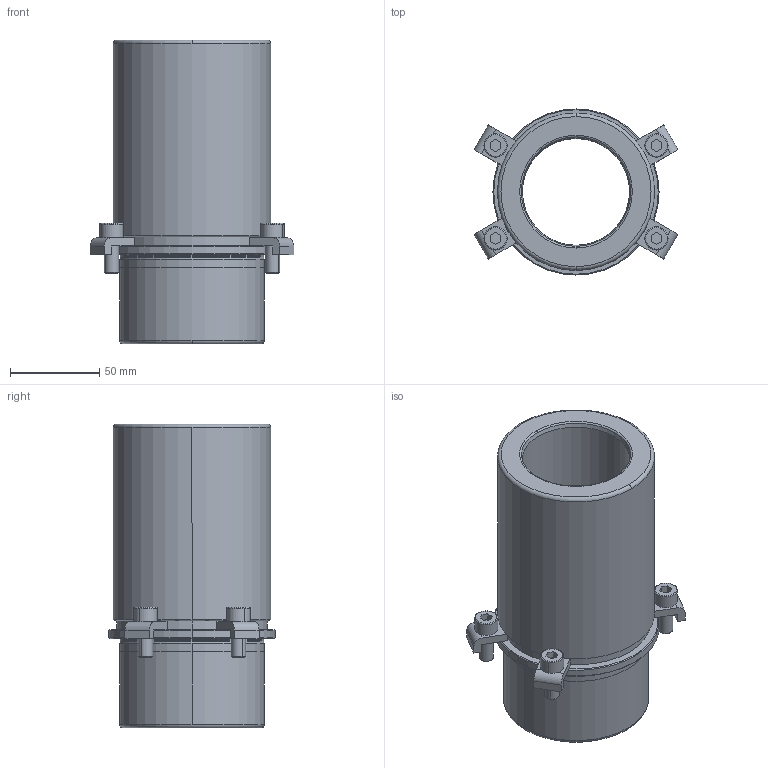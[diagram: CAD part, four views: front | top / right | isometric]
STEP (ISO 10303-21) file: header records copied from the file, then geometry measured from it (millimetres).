
FILE_DESCRIPTION((''),'2;1');
FILE_NAME('B40_048_120.stp','2009-01-05T16:41:07',(''),(''),'Mechanical Desktop 2009','Mechanical Desktop 2009',', , ');
FILE_SCHEMA(('CONFIG_CONTROL_DESIGN'));
Length unit declared in the file: millimetre
Products named in the file (2): Product; blmdl1
Assembly tree (1 placements, depth 2):
  Product
    blmdl1
Bounding box: 114.12 x 93 x 170 mm (x, y, z)
Volume: 519964.4 mm3; surface area: 94851.4 mm2
Topology: 9 solids, 9 shells, 173 faces, 422 edges, 278 vertices
Faces by surface type: plane 73, cylinder 50, cone 22, torus 16, bspline 12
Entity records: 5767 total; most frequent: CARTESIAN_POINT 1403, DIRECTION 966, ORIENTED_EDGE 844, EDGE_CURVE 422, AXIS2_PLACEMENT_3D 381, VERTEX_POINT 278, CIRCLE 218, VECTOR 204
